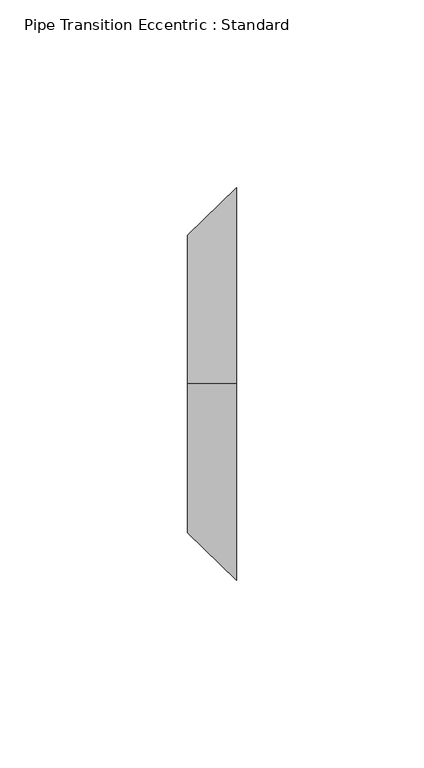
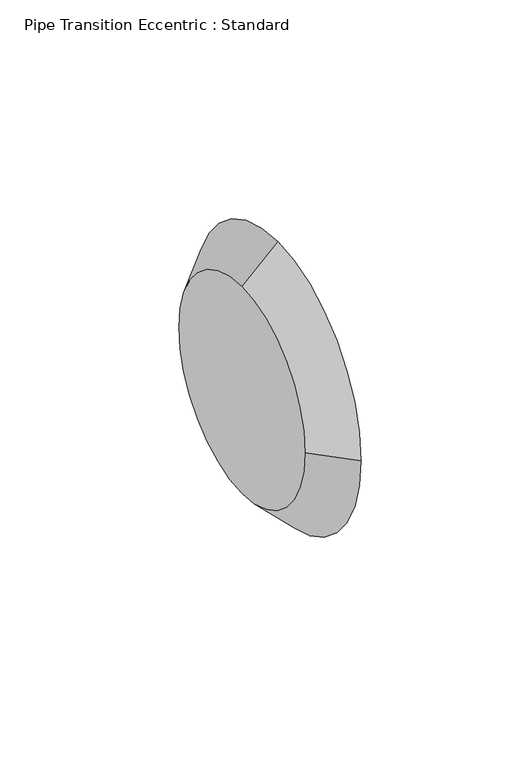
"""IFC4 building model written with IfcOpenShell, lengths in millimetres: pipe fitting geometry, Pipe Transition Eccentric : Standard."""

from ifc_helpers import new_model, si_unit, frame, origin, place, context, project, spatial, polyline, circle_curve, source, transform, mapped, element, save
from ifc_brep_helpers import plane_surface, revolved_surface, advanced_brep


def pipe_transition_eccentric_standard_3f24249d(model_context):
    return source(origin(), model_context, "Body", "AdvancedBrep", [
        advanced_brep(
        [(13.096875, 0.0, 52.3875), (13.096875, -52.3875, 0.0), (13.096875, 0.0, -52.3875), (13.096875, 52.3875, 0.0), (0.0, 0.0, 39.6875), (0.0, 39.6875, 0.0), (0.0, 0.0, -39.6875), (0.0, -39.6875, 0.0)],
        [
            (0, 1, circle_curve(frame((13.096875, 0.0, 0.0), z_axis=(1.0, 0.0, 0.0), x_axis=(0.0, 0.0, 1.0)), 52.3875)),
            (1, 2, circle_curve(frame((13.096875, 0.0, 0.0), z_axis=(1.0, 0.0, 0.0), x_axis=(0.0, -1.0, 0.0)), 52.3875)),
            (2, 3, circle_curve(frame((13.096875, 0.0, 0.0), z_axis=(1.0, 0.0, 0.0), x_axis=(0.0, 0.0, -1.0)), 52.3875)),
            (3, 0, circle_curve(frame((13.096875, 0.0, 0.0), z_axis=(1.0, 0.0, 0.0), x_axis=(0.0, 1.0, 0.0)), 52.3875)),
            (4, 5, circle_curve(frame((0.0, 0.0, 0.0), z_axis=(-1.0, 0.0, 0.0), x_axis=(0.0, 1.0, 0.0)), 39.6875)),
            (5, 6, circle_curve(frame((0.0, 0.0, 0.0), z_axis=(-1.0, 0.0, 0.0), x_axis=(0.0, 0.0, -1.0)), 39.6875)),
            (6, 7, circle_curve(frame((0.0, 0.0, 0.0), z_axis=(-1.0, 0.0, 0.0), x_axis=(0.0, -1.0, 0.0)), 39.6875)),
            (7, 4, circle_curve(frame((0.0, 0.0, 0.0), z_axis=(-1.0, 0.0, 0.0), x_axis=(0.0, 0.0, 1.0)), 39.6875)),
            (7, 1),
            (0, 4),
            (6, 2),
            (5, 3),
        ],
        [
            plane_surface(frame((13.096875, 0.0, 0.0), z_axis=(1.0, 0.0, 0.0), x_axis=(0.0, -1.0, 0.0))),
            plane_surface(frame((0.0, 0.0, 0.0), z_axis=(-1.0, 0.0, 0.0), x_axis=(0.0, -1.0, 0.0))),
            revolved_surface(polyline([(0.0, -39.68750000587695, 0.0), (13.096875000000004, -52.3875, 0.0)]), (-40.9277344, 0.0, 0.0), (1.0, 0.0, 0.0)),
            revolved_surface(polyline([(0.0, 0.0, -39.68750000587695), (13.096875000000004, 0.0, -52.3875)]), (-40.9277344, 0.0, 0.0), (1.0, 0.0, 0.0)),
            revolved_surface(polyline([(0.0, 39.68750000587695, 0.0), (13.096875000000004, 52.3875, 0.0)]), (-40.9277344, 0.0, 0.0), (1.0, 0.0, 0.0)),
            revolved_surface(polyline([(0.0, 0.0, 39.68750000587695), (13.096875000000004, 0.0, 52.3875)]), (-40.9277344, 0.0, 0.0), (1.0, 0.0, 0.0)),
        ],
        [
            (0, [[1, 2, 3, 4]]),
            (1, [[5, 6, 7, 8]]),
            (2, [[-8, 9, -1, 10]]),
            (3, [[-7, 11, -2, -9]]),
            (4, [[-6, 12, -3, -11]]),
            (5, [[-5, -10, -4, -12]]),
        ],
    ),
        advanced_brep(
        [(13.096875, 0.0, 52.3875), (13.096875, -52.3875, 0.0), (13.096875, 0.0, -52.3875), (13.096875, 52.3875, 0.0), (0.0, 0.0, 39.6875), (0.0, 39.6875, 0.0), (0.0, 0.0, -39.6875), (0.0, -39.6875, 0.0)],
        [
            (0, 1, circle_curve(frame((13.096875, 0.0, 0.0), z_axis=(1.0, 0.0, 0.0), x_axis=(0.0, 0.0, 1.0)), 52.3875)),
            (1, 2, circle_curve(frame((13.096875, 0.0, 0.0), z_axis=(1.0, 0.0, 0.0), x_axis=(0.0, -1.0, 0.0)), 52.3875)),
            (2, 3, circle_curve(frame((13.096875, 0.0, 0.0), z_axis=(1.0, 0.0, -1.0251980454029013e-12), x_axis=(-1.0251463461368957e-12, 0.0, -1.0)), 52.3875)),
            (3, 0, circle_curve(frame((13.096875, 0.0, 0.0), z_axis=(1.0, 0.0, 0.0), x_axis=(0.0, 1.0, 0.0)), 52.3875)),
            (4, 5, circle_curve(frame((0.0, 0.0, 0.0), z_axis=(-1.0, 0.0, 0.0), x_axis=(0.0, 1.0, 0.0)), 39.6875)),
            (5, 6, circle_curve(frame((0.0, 0.0, 0.0), z_axis=(-1.0, 0.0, 1.0251980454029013e-12), x_axis=(-1.0251463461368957e-12, 0.0, -1.0)), 39.6875)),
            (6, 7, circle_curve(frame((0.0, 0.0, 0.0), z_axis=(-1.0, 0.0, 0.0), x_axis=(0.0, -1.0, 0.0)), 39.6875)),
            (7, 4, circle_curve(frame((0.0, 0.0, 0.0), z_axis=(-1.0, 0.0, 0.0), x_axis=(0.0, 0.0, 1.0)), 39.6875)),
            (7, 1),
            (0, 4),
            (6, 2),
            (5, 3),
        ],
        [
            plane_surface(frame((13.096875, 0.0, 0.0), z_axis=(1.0, 0.0, 0.0), x_axis=(0.0, -1.0, 0.0))),
            plane_surface(frame((0.0, 0.0, 0.0), z_axis=(-1.0, 0.0, 0.0), x_axis=(0.0, -1.0, 0.0))),
            revolved_surface(polyline([(0.0, -39.68750000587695, 0.0), (13.096875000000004, -52.3875, 0.0)]), (-40.9277344, 0.0, 0.0), (1.0, 0.0, 0.0)),
            revolved_surface(polyline([(0.0, 0.0, -39.68750000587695), (13.096875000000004, 0.0, -52.3875)]), (-40.9277344, 0.0, 0.0), (1.0, 0.0, 0.0)),
            revolved_surface(polyline([(0.0, 39.68750000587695, 0.0), (13.096875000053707, 52.38750000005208, 0.0)]), (-40.9277344, 0.0, 0.0), (1.0, 0.0, -1.0251980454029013e-12)),
            revolved_surface(polyline([(0.0, 0.0, 39.68750000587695), (13.096875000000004, 0.0, 52.3875)]), (-40.9277344, 0.0, 0.0), (1.0, 0.0, 0.0)),
        ],
        [
            (0, [[1, 2, 3, 4]]),
            (1, [[5, 6, 7, 8]]),
            (2, [[-8, 9, -1, 10]]),
            (3, [[-7, 11, -2, -9]]),
            (4, [[-6, 12, -3, -11]]),
            (5, [[-5, -10, -4, -12]]),
        ],
    ),
    ])


if __name__ == "__main__":
    model = new_model("IFC4")
    model_context = context("Model", 3, world=origin())
    ifc_project = project(units=[si_unit("LENGTHUNIT", "METRE", prefix="MILLI")], contexts=[model_context])
    site = spatial("IfcSite", under=ifc_project)
    building = spatial("IfcBuilding", under=site)
    placement = place(None, origin())
    pipe_transition_eccentric_standard_shape = pipe_transition_eccentric_standard_3f24249d(model_context)
    element("IfcPipeFitting", 1, ObjectType="Pipe Transition Eccentric : Standard", at=placement, inside=building, context=model_context, shape_type="MappedRepresentation", body=[
        mapped(pipe_transition_eccentric_standard_shape, transform((0.0, 0.0, 0.0), x_axis=(1.0, 0.0, 0.0), y_axis=(0.0, 1.0, 0.0), z_axis=(0.0, 0.0, 1.0))),
    ])
    save(model, "model.ifc")
